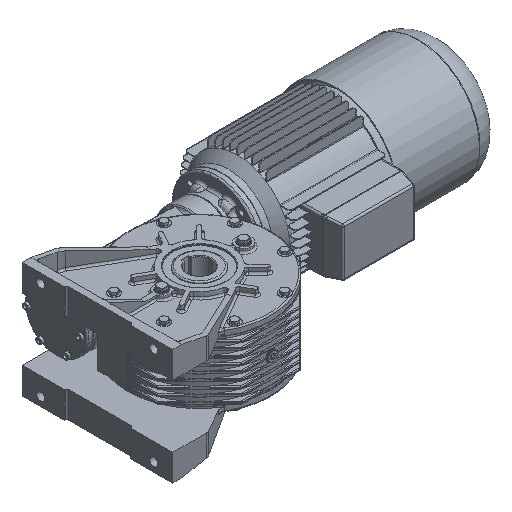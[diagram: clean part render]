
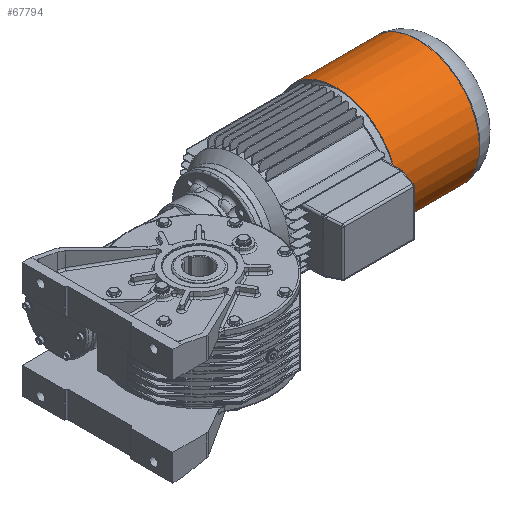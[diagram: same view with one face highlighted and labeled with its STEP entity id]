
A CAD part, isometric view. The second image highlights one B-rep face of the part: STEP entity #67794.
In plain terms, the highlighted cylindrical face has radius 137.5 mm (diameter 275 mm), a full revolution.
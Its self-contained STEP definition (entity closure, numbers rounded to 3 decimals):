
#67651=CARTESIAN_POINT('',(524.0,137.5,0.0));
#67652=VERTEX_POINT('',#67651);
#67653=CARTESIAN_POINT('',(524.0,0.0,0.0));
#67654=DIRECTION('',(1.0,0.0,0.0));
#67655=DIRECTION('',(0.0,1.0,0.0));
#67656=AXIS2_PLACEMENT_3D('',#67653,#67654,#67655);
#67657=CIRCLE('',#67656,137.5);
#67658=EDGE_CURVE('',#67652,#67652,#67657,.T.);
#67768=CARTESIAN_POINT('',(338.0,137.5,0.0));
#67769=VERTEX_POINT('',#67768);
#67770=CARTESIAN_POINT('',(338.0,0.0,0.0));
#67771=DIRECTION('',(1.0,0.0,0.0));
#67772=DIRECTION('',(0.0,1.0,0.0));
#67773=AXIS2_PLACEMENT_3D('',#67770,#67771,#67772);
#67774=CIRCLE('',#67773,137.5);
#67775=EDGE_CURVE('',#67769,#67769,#67774,.T.);
#67783=CARTESIAN_POINT('',(431.0,0.0,0.0));
#67784=DIRECTION('',(1.0,0.0,0.0));
#67785=DIRECTION('',(0.0,1.0,0.0));
#67786=AXIS2_PLACEMENT_3D('',#67783,#67784,#67785);
#67787=CYLINDRICAL_SURFACE('',#67786,137.5);
#67788=ORIENTED_EDGE('',*,*,#67658,.F.);
#67789=EDGE_LOOP('',(#67788));
#67790=FACE_OUTER_BOUND('',#67789,.T.);
#67791=ORIENTED_EDGE('',*,*,#67775,.T.);
#67792=EDGE_LOOP('',(#67791));
#67793=FACE_BOUND('',#67792,.T.);
#67794=ADVANCED_FACE('',(#67790,#67793),#67787,.T.);
